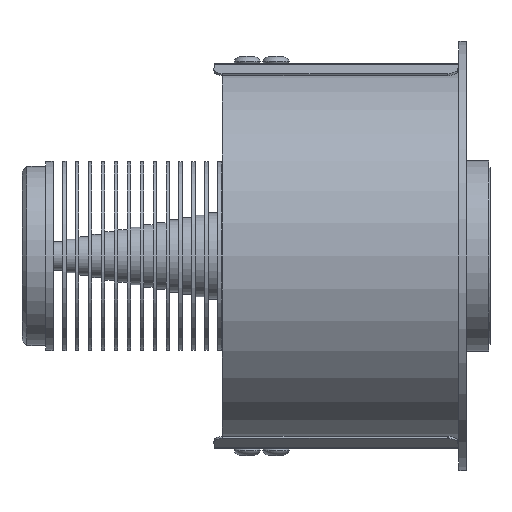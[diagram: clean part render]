
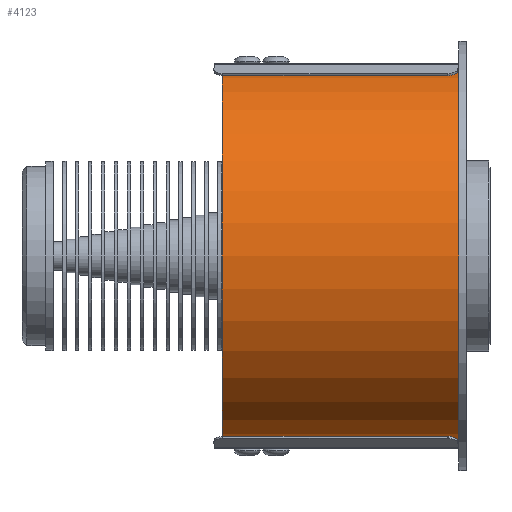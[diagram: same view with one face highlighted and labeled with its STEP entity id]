
A CAD part, left-side view. The second image highlights one B-rep face of the part: STEP entity #4123.
In plain terms, the highlighted cylindrical face has radius 39.693 mm (diameter 79.386 mm), a partial arc.
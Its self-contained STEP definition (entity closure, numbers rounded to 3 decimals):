
#116 = DIRECTION ( 'NONE',  ( 0., 0., 1. ) ) ;
#209 = VERTEX_POINT ( 'NONE', #2455 ) ;
#533 = CYLINDRICAL_SURFACE ( 'NONE', #3352, 39.693 ) ;
#589 = DIRECTION ( 'NONE',  ( 0., 1., 0. ) ) ;
#930 = DIRECTION ( 'NONE',  ( 0., 0., 1. ) ) ;
#956 = AXIS2_PLACEMENT_3D ( 'NONE', #2834, #589, #4016 ) ;
#1222 = EDGE_CURVE ( 'NONE', #4747, #209, #7069, .T. ) ;
#1390 = ORIENTED_EDGE ( 'NONE', *, *, #5563, .F. ) ;
#1424 = EDGE_CURVE ( 'NONE', #1798, #4747, #1794, .T. ) ;
#1507 = AXIS2_PLACEMENT_3D ( 'NONE', #5557, #6616, #930 ) ;
#1681 = CARTESIAN_POINT ( 'NONE',  ( 0., 8.431, 39.693 ) ) ;
#1725 = CARTESIAN_POINT ( 'NONE',  ( 0., 8.431, 0. ) ) ;
#1794 = CIRCLE ( 'NONE', #956, 39.693 ) ;
#1798 = VERTEX_POINT ( 'NONE', #2053 ) ;
#2053 = CARTESIAN_POINT ( 'NONE',  ( 0., -35.016, 39.693 ) ) ;
#2440 = LINE ( 'NONE', #1681, #5149 ) ;
#2455 = CARTESIAN_POINT ( 'NONE',  ( 0., 14.431, -39.693 ) ) ;
#2834 = CARTESIAN_POINT ( 'NONE',  ( 0., -35.016, 0. ) ) ;
#2911 = EDGE_LOOP ( 'NONE', ( #4201, #4802, #6572, #1390 ) ) ;
#3352 = AXIS2_PLACEMENT_3D ( 'NONE', #1725, #6769, #116 ) ;
#3539 = CARTESIAN_POINT ( 'NONE',  ( 0., -35.016, -39.693 ) ) ;
#3727 = CARTESIAN_POINT ( 'NONE',  ( 0., 8.431, -39.693 ) ) ;
#3761 = DIRECTION ( 'NONE',  ( 0., 1., 0. ) ) ;
#3958 = DIRECTION ( 'NONE',  ( 0., 1., 0. ) ) ;
#4016 = DIRECTION ( 'NONE',  ( 0., 0., 1. ) ) ;
#4123 = ADVANCED_FACE ( 'NONE', ( #5208 ), #533, .T. ) ;
#4201 = ORIENTED_EDGE ( 'NONE', *, *, #1424, .T. ) ;
#4747 = VERTEX_POINT ( 'NONE', #3539 ) ;
#4802 = ORIENTED_EDGE ( 'NONE', *, *, #1222, .T. ) ;
#5149 = VECTOR ( 'NONE', #3958, 1000. ) ;
#5208 = FACE_OUTER_BOUND ( 'NONE', #2911, .T. ) ;
#5469 = VECTOR ( 'NONE', #3761, 1000. ) ;
#5557 = CARTESIAN_POINT ( 'NONE',  ( 0., 14.431, 0. ) ) ;
#5563 = EDGE_CURVE ( 'NONE', #1798, #5863, #2440, .T. ) ;
#5715 = CARTESIAN_POINT ( 'NONE',  ( 0., 14.431, 39.693 ) ) ;
#5863 = VERTEX_POINT ( 'NONE', #5715 ) ;
#6269 = EDGE_CURVE ( 'NONE', #5863, #209, #6366, .T. ) ;
#6366 = CIRCLE ( 'NONE', #1507, 39.693 ) ;
#6572 = ORIENTED_EDGE ( 'NONE', *, *, #6269, .F. ) ;
#6616 = DIRECTION ( 'NONE',  ( 0., 1., 0. ) ) ;
#6769 = DIRECTION ( 'NONE',  ( 0., 1., 0. ) ) ;
#7069 = LINE ( 'NONE', #3727, #5469 ) ;
